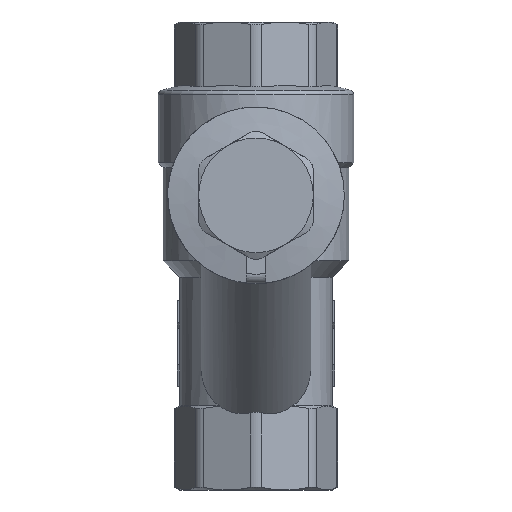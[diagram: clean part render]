
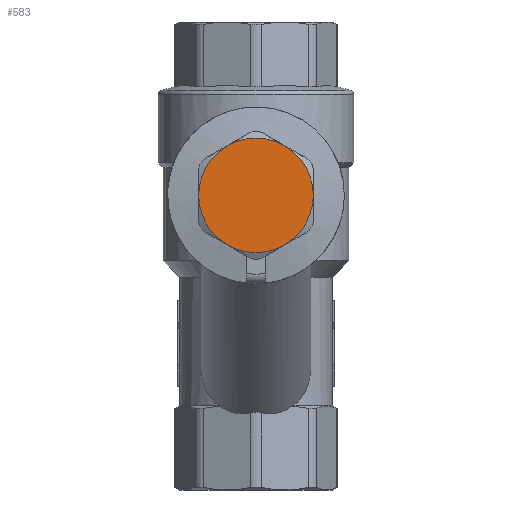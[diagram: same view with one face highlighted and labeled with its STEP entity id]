
A CAD part, front view. The second image highlights one B-rep face of the part: STEP entity #583.
In plain terms, the highlighted planar face has unit normal (0, -1, 0).
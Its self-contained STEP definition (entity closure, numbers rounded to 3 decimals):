
#583=ADVANCED_FACE('',(#4509),#4511,.F.);
#4509=FACE_BOUND('',#4510,.T.);
#4510=EDGE_LOOP('',(#7863,#7864,#7865));
#4511=PLANE('',#4512);
#4512=AXIS2_PLACEMENT_3D('',#4513,#4514,#4515);
#4513=CARTESIAN_POINT('',(0.,-70.,0.));
#4514=DIRECTION('',(0.,1.,0.));
#4515=DIRECTION('',(1.,0.,0.));
#7863=ORIENTED_EDGE('',*,*,#9632,.T.);
#7864=ORIENTED_EDGE('',*,*,#9630,.T.);
#7865=ORIENTED_EDGE('',*,*,#9633,.T.);
#9630=EDGE_CURVE('',#12172,#12194,#12234,.F.);
#9632=EDGE_CURVE('',#12180,#12172,#12236,.F.);
#9633=EDGE_CURVE('',#12194,#12180,#12237,.F.);
#12172=VERTEX_POINT('',#22681);
#12180=VERTEX_POINT('',#22767);
#12194=VERTEX_POINT('',#22947);
#12234=CIRCLE('',#23183,12.);
#12236=CIRCLE('',#23209,12.);
#12237=CIRCLE('',#23213,12.);
#22681=CARTESIAN_POINT('',(-12.,-70.,0.));
#22767=CARTESIAN_POINT('',(-6.,-70.,10.392));
#22947=CARTESIAN_POINT('',(12.,-70.,0.));
#23183=AXIS2_PLACEMENT_3D('',#23184,#23185,#23186);
#23184=CARTESIAN_POINT('',(0.,-70.,0.));
#23185=DIRECTION('',(0.,1.,0.));
#23186=DIRECTION('',(1.,0.,0.));
#23209=AXIS2_PLACEMENT_3D('',#23210,#23211,#23212);
#23210=CARTESIAN_POINT('',(0.,-70.,0.));
#23211=DIRECTION('',(0.,1.,0.));
#23212=DIRECTION('',(-1.,0.,0.));
#23213=AXIS2_PLACEMENT_3D('',#23214,#23215,#23216);
#23214=CARTESIAN_POINT('',(0.,-70.,0.));
#23215=DIRECTION('',(0.,1.,0.));
#23216=DIRECTION('',(-0.5,0.,0.866));
